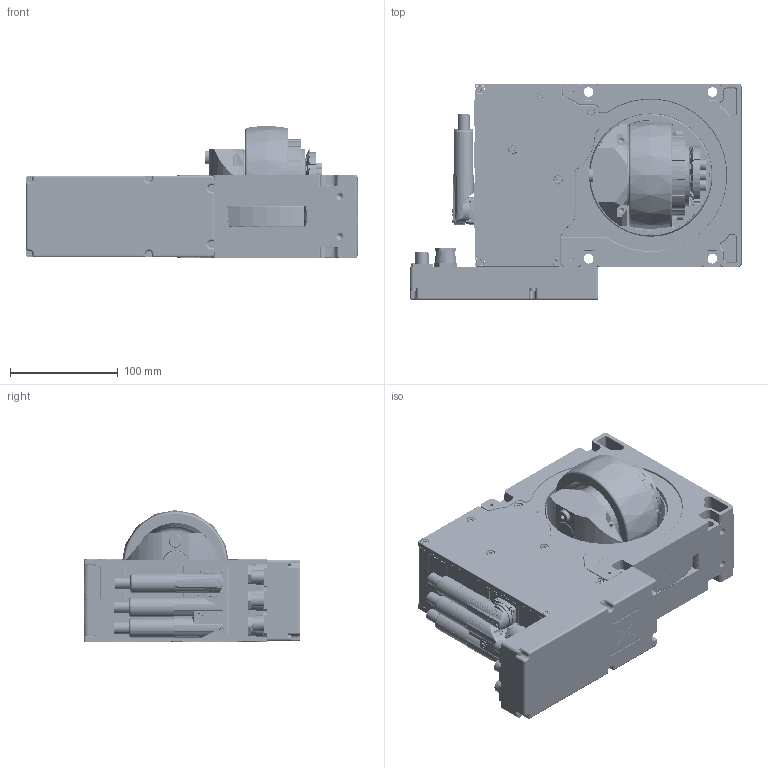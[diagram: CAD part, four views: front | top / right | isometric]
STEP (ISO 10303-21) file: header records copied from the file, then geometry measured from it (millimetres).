
FILE_DESCRIPTION(/* description */ (''),/* implementation_level */ '2;1');
FILE_NAME(/* name */ 'ArgoDriveModule L V1.0.0.stp',/* time_stamp */ '2025-04-22T11:24:10+02:00',/* author */ ('FLV'),/* organization */ (''),/* preprocessor_version */ 'ST-DEVELOPER v20',/* originating_system */ 'Autodesk Inventor 2025',/* authorisation */ '');
FILE_SCHEMA (('AUTOMOTIVE_DESIGN { 1 0 10303 214 3 1 1 }'));
Products named in the file (9): ArgoDriveModule L V1.0.0; 8315120051; Kabelbuchse Intercontec 915; ArgoBox V1.0.0 Simplified; ArgoBox Unterteil V1.0.0 Simplified; Kabelverschraubung PG11 stumpf; M12-Buchse Vorderwandmontage Flansch; M12-Stecker Vorderwandmontage 20mm-Flansch; ArgoBox Deckel V1.0.1 Simplified
Assembly tree (13 placements, depth 3):
  ArgoDriveModule L V1.0.0
    8315120051
    Kabelbuchse Intercontec 915  x3
    ArgoBox V1.0.0 Simplified
      ArgoBox Unterteil V1.0.0 Simplified
      Kabelverschraubung PG11 stumpf  x3
      M12-Buchse Vorderwandmontage Flansch
      M12-Stecker Vorderwandmontage 20mm-Flansch  x2
      ArgoBox Deckel V1.0.1 Simplified
Bounding box: 308.5 x 201 x 122.36 mm (x, y, z)
Volume: 3631703.3 mm3; surface area: 423870.7 mm2
Topology: 16 solids, 112 shells, 13902 faces, 34565 edges, 21258 vertices
Faces by surface type: plane 4886, bspline 3671, cylinder 2960, torus 1166, cone 839, sphere 380
Full cylindrical faces by diameter (mm): 0.3 x36, 1 x45, 1.2 x6, 1.5 x4, 1.6 x1, 1.8 x4, 1.9 x1, 2 x6, 2.013 x4, 2.05 x1, 2.3 x4, 2.459 x13, 2.5 x10, 2.6 x8, 2.7 x10, 2.8 x2, 3 x12, 3.05 x2, 3.06 x1, 3.1 x5, 3.2 x14, 3.242 x8, 3.4 x11, 3.5 x1, 4 x33, 4.2 x2, 4.5 x18, 4.7 x2, 4.8 x2, 5 x10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
Entity records: 637798 total; most frequent: CARTESIAN_POINT 313305, ORIENTED_EDGE 67834, DIRECTION 59945, EDGE_CURVE 33917, AXIS2_PLACEMENT_3D 22293, VERTEX_POINT 21024, LINE 15359, VECTOR 15359
